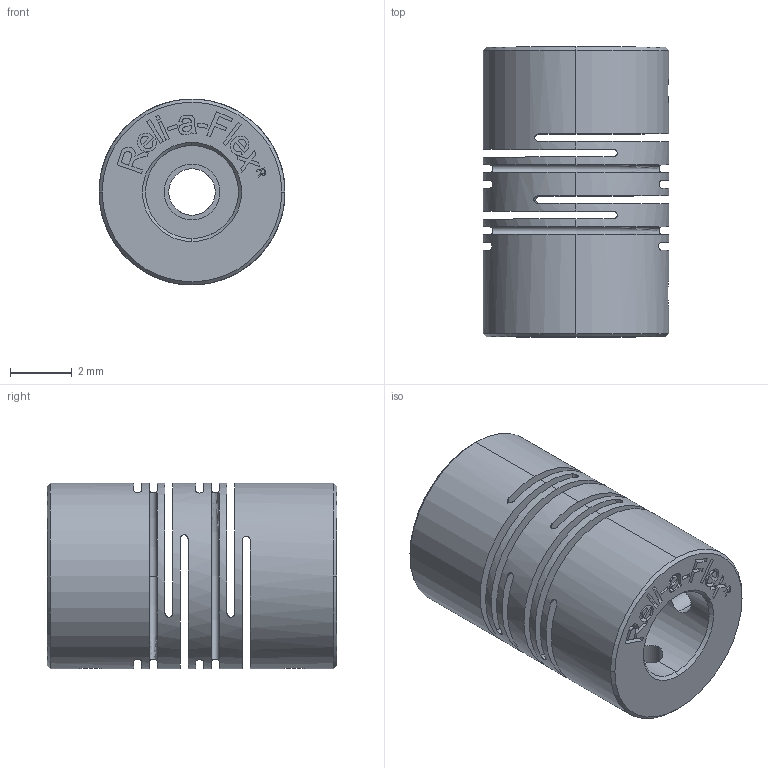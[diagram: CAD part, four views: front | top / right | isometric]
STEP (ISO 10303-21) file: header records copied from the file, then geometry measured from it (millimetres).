
FILE_DESCRIPTION (( 'STEP AP203' ), '1' );
FILE_NAME ('RCSA6-3-1.5.STEP', '2012-04-26T18:29:55', ( 'render' ), ( '' ), 'SwSTEP 2.0', 'SolidWorks 2011', '' );
FILE_SCHEMA (( 'CONFIG_CONTROL_DESIGN' ));
Length unit declared in the file: inch
Products named in the file (1): RCSA6-3-1.5
Bounding box: 6 x 9.35 x 6 mm (x, y, z)
Volume: 184.7 mm3; surface area: 610.2 mm2
Topology: 1 solids, 1 shells, 206 faces, 558 edges, 370 vertices
Faces by surface type: plane 120, cylinder 68, torus 10, cone 8
Entity records: 6877 total; most frequent: CARTESIAN_POINT 1437, DIRECTION 1120, ORIENTED_EDGE 1116, EDGE_CURVE 558, AXIS2_PLACEMENT_3D 393, VERTEX_POINT 370, LINE 334, VECTOR 334
